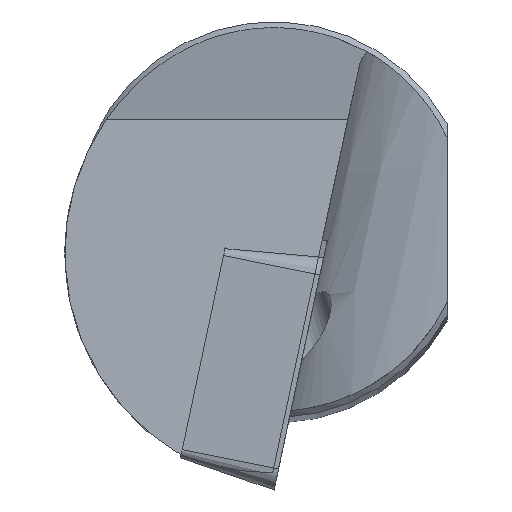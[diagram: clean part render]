
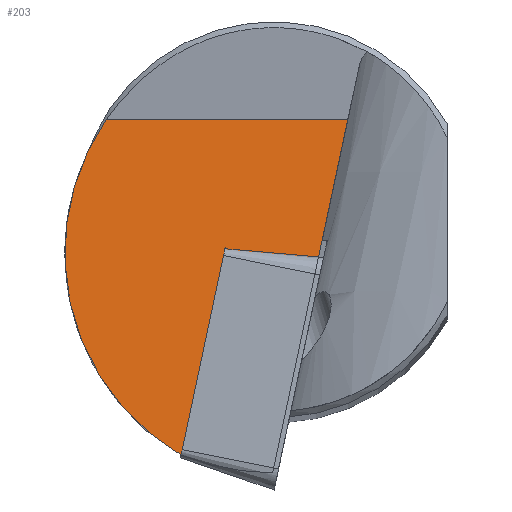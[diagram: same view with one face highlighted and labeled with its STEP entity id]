
A CAD part, top view. The second image highlights one B-rep face of the part: STEP entity #203.
In plain terms, the highlighted planar face has unit normal (0, 0.089, 0.996).
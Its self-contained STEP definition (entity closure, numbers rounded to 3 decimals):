
#137=PLANE('',#553);
#149=LINE('',#746,#175);
#150=LINE('',#748,#176);
#175=VECTOR('',#606,1.);
#176=VECTOR('',#607,1.);
#203=ADVANCED_FACE('',(#237),#137,.F.);
#237=FACE_OUTER_BOUND('',#259,.T.);
#259=EDGE_LOOP('',(#324,#325,#326,#327));
#324=ORIENTED_EDGE('',*,*,#479,.T.);
#325=ORIENTED_EDGE('',*,*,#486,.F.);
#326=ORIENTED_EDGE('',*,*,#487,.T.);
#327=ORIENTED_EDGE('',*,*,#488,.F.);
#438=VERTEX_POINT('',#718);
#439=VERTEX_POINT('',#719);
#444=VERTEX_POINT('',#747);
#445=VERTEX_POINT('',#749);
#479=EDGE_CURVE('',#438,#439,#540,.T.);
#486=EDGE_CURVE('',#444,#439,#149,.T.);
#487=EDGE_CURVE('',#444,#445,#150,.T.);
#488=EDGE_CURVE('',#438,#445,#541,.T.);
#540=ELLIPSE('',#547,10.226,10.185);
#541=ELLIPSE('',#552,9.498,9.461);
#547=AXIS2_PLACEMENT_3D('',#717,#596,#597);
#552=AXIS2_PLACEMENT_3D('',#750,#608,#609);
#553=AXIS2_PLACEMENT_3D('',#751,#610,#611);
#596=DIRECTION('',(0.,0.089,0.996));
#597=DIRECTION('',(0.,-0.996,0.089));
#606=DIRECTION('',(-0.207,-0.974,0.087));
#607=DIRECTION('',(-1.,0.,0.));
#608=DIRECTION('',(0.,-0.089,-0.996));
#609=DIRECTION('',(0.,-0.996,0.089));
#610=DIRECTION('',(0.,-0.089,-0.996));
#611=DIRECTION('',(0.,0.996,-0.089));
#717=CARTESIAN_POINT('',(0.,-0.08,-1.81));
#718=CARTESIAN_POINT('',(-3.748,-9.551,-0.963));
#719=CARTESIAN_POINT('',(-0.045,-10.265,-0.899));
#746=CARTESIAN_POINT('',(0.169,-9.256,-0.989));
#747=CARTESIAN_POINT('',(2.987,4.,-2.175));
#748=CARTESIAN_POINT('',(-10.3,4.,-2.175));
#749=CARTESIAN_POINT('',(-6.769,4.,-2.175));
#750=CARTESIAN_POINT('',(1.015,-1.377,-1.694));
#751=CARTESIAN_POINT('',(-10.3,-10.862,-0.845));
